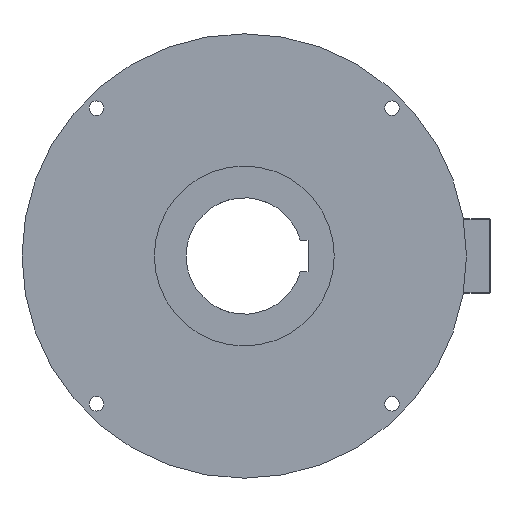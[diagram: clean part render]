
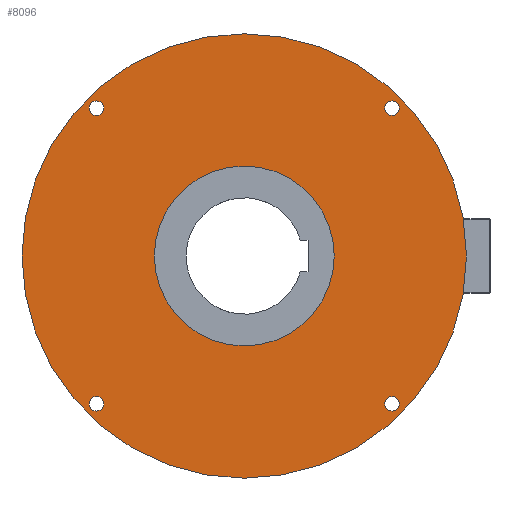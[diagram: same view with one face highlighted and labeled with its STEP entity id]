
A CAD part, left-side view. The second image highlights one B-rep face of the part: STEP entity #8096.
In plain terms, the highlighted planar face has unit normal (-1, 0, 0).
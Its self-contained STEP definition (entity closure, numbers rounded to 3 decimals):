
#175=FACE_BOUND('',#953,.T.);
#176=FACE_BOUND('',#954,.T.);
#177=FACE_BOUND('',#955,.T.);
#178=FACE_BOUND('',#956,.T.);
#179=FACE_BOUND('',#957,.T.);
#244=PLANE('',#8842);
#475=FACE_OUTER_BOUND('',#952,.T.);
#952=EDGE_LOOP('',(#5580,#5581));
#953=EDGE_LOOP('',(#5582));
#954=EDGE_LOOP('',(#5583));
#955=EDGE_LOOP('',(#5584));
#956=EDGE_LOOP('',(#5585));
#957=EDGE_LOOP('',(#5586,#5587));
#2434=CIRCLE('',#8775,34.);
#2435=CIRCLE('',#8776,34.);
#2436=CIRCLE('',#8778,84.);
#2437=CIRCLE('',#8779,84.);
#2480=CIRCLE('',#8834,2.75);
#2481=CIRCLE('',#8836,2.75);
#2482=CIRCLE('',#8838,2.75);
#2483=CIRCLE('',#8840,2.75);
#3130=VERTEX_POINT('',#12989);
#3131=VERTEX_POINT('',#12990);
#3132=VERTEX_POINT('',#12995);
#3133=VERTEX_POINT('',#12996);
#3170=VERTEX_POINT('',#13162);
#3171=VERTEX_POINT('',#13166);
#3172=VERTEX_POINT('',#13170);
#3173=VERTEX_POINT('',#13174);
#4022=EDGE_CURVE('',#3130,#3131,#2434,.T.);
#4024=EDGE_CURVE('',#3131,#3130,#2435,.T.);
#4025=EDGE_CURVE('',#3132,#3133,#2436,.T.);
#4026=EDGE_CURVE('',#3133,#3132,#2437,.T.);
#4083=EDGE_CURVE('',#3170,#3170,#2480,.T.);
#4085=EDGE_CURVE('',#3171,#3171,#2481,.T.);
#4087=EDGE_CURVE('',#3172,#3172,#2482,.T.);
#4089=EDGE_CURVE('',#3173,#3173,#2483,.T.);
#5580=ORIENTED_EDGE('',*,*,#4025,.T.);
#5581=ORIENTED_EDGE('',*,*,#4026,.T.);
#5582=ORIENTED_EDGE('',*,*,#4089,.T.);
#5583=ORIENTED_EDGE('',*,*,#4087,.T.);
#5584=ORIENTED_EDGE('',*,*,#4085,.T.);
#5585=ORIENTED_EDGE('',*,*,#4083,.T.);
#5586=ORIENTED_EDGE('',*,*,#4022,.F.);
#5587=ORIENTED_EDGE('',*,*,#4024,.F.);
#8096=ADVANCED_FACE('',(#475,#175,#176,#177,#178,#179),#244,.T.);
#8775=AXIS2_PLACEMENT_3D('',#12991,#10332,#10333);
#8776=AXIS2_PLACEMENT_3D('',#12993,#10335,#10336);
#8778=AXIS2_PLACEMENT_3D('',#12997,#10339,#10340);
#8779=AXIS2_PLACEMENT_3D('',#12998,#10341,#10342);
#8834=AXIS2_PLACEMENT_3D('',#13164,#10460,#10461);
#8836=AXIS2_PLACEMENT_3D('',#13168,#10465,#10466);
#8838=AXIS2_PLACEMENT_3D('',#13172,#10470,#10471);
#8840=AXIS2_PLACEMENT_3D('',#13176,#10475,#10476);
#8842=AXIS2_PLACEMENT_3D('',#13178,#10479,#10480);
#10332=DIRECTION('center_axis',(-1.,0.,0.));
#10333=DIRECTION('ref_axis',(0.,1.,0.));
#10335=DIRECTION('center_axis',(-1.,0.,0.));
#10336=DIRECTION('ref_axis',(0.,1.,0.));
#10339=DIRECTION('center_axis',(-1.,0.,0.));
#10340=DIRECTION('ref_axis',(0.,1.,0.));
#10341=DIRECTION('center_axis',(-1.,0.,0.));
#10342=DIRECTION('ref_axis',(0.,1.,0.));
#10460=DIRECTION('center_axis',(1.,0.,0.));
#10461=DIRECTION('ref_axis',(0.,0.,
-1.));
#10465=DIRECTION('center_axis',(1.,0.,0.));
#10466=DIRECTION('ref_axis',(0.,0.,
-1.));
#10470=DIRECTION('center_axis',(1.,0.,0.));
#10471=DIRECTION('ref_axis',(0.,0.,
-1.));
#10475=DIRECTION('center_axis',(1.,0.,0.));
#10476=DIRECTION('ref_axis',(0.,0.,
-1.));
#10479=DIRECTION('center_axis',(-1.,0.,0.));
#10480=DIRECTION('ref_axis',(0.,0.,
1.));
#12989=CARTESIAN_POINT('',(-41.6,34.,0.));
#12990=CARTESIAN_POINT('',(-41.6,-34.,0.));
#12991=CARTESIAN_POINT('Origin',(-41.6,0.,0.));
#12993=CARTESIAN_POINT('Origin',(-41.6,0.,0.));
#12995=CARTESIAN_POINT('',(-41.6,84.,0.));
#12996=CARTESIAN_POINT('',(-41.6,-84.,0.));
#12997=CARTESIAN_POINT('Origin',(-41.6,0.,0.));
#12998=CARTESIAN_POINT('Origin',(-41.6,0.,0.));
#13162=CARTESIAN_POINT('',(-41.6,55.861,-53.111));
#13164=CARTESIAN_POINT('Origin',(-41.6,55.861,-55.861));
#13166=CARTESIAN_POINT('',(-41.6,-55.861,58.611));
#13168=CARTESIAN_POINT('Origin',(-41.6,-55.861,55.861));
#13170=CARTESIAN_POINT('',(-41.6,55.861,58.611));
#13172=CARTESIAN_POINT('Origin',(-41.6,55.861,55.861));
#13174=CARTESIAN_POINT('',(-41.6,-55.861,-53.111));
#13176=CARTESIAN_POINT('Origin',(-41.6,-55.861,-55.861));
#13178=CARTESIAN_POINT('Origin',(-41.6,59.,0.));
